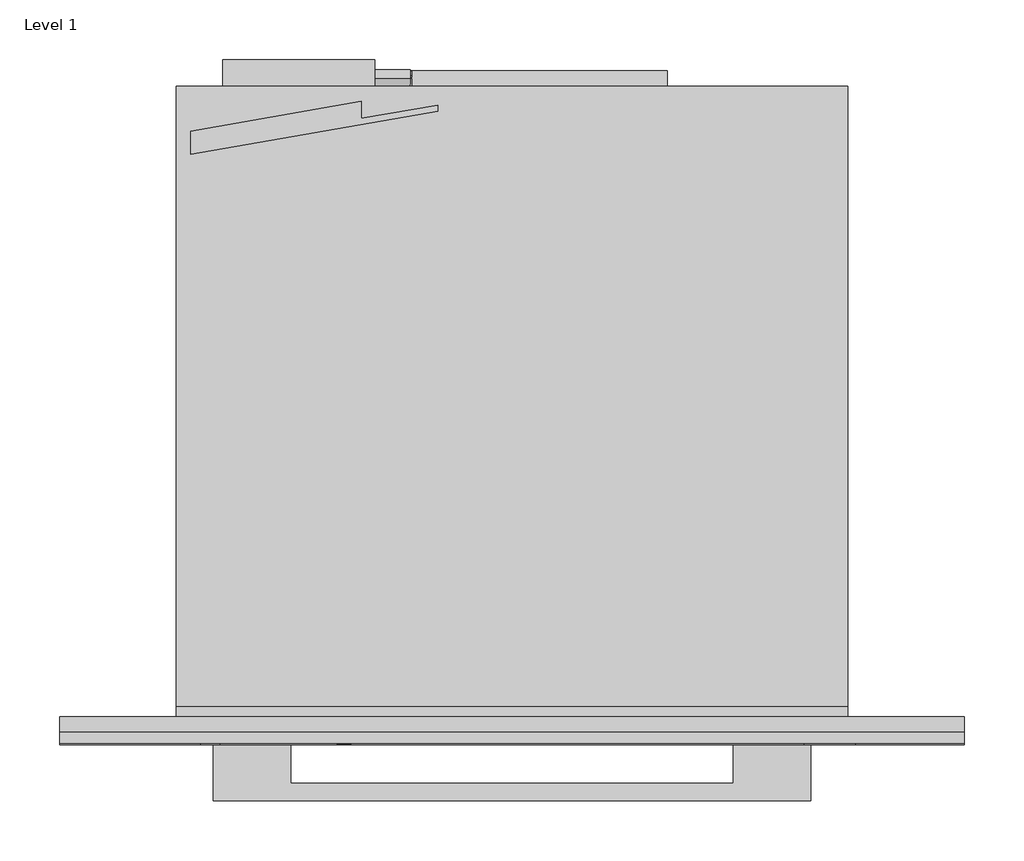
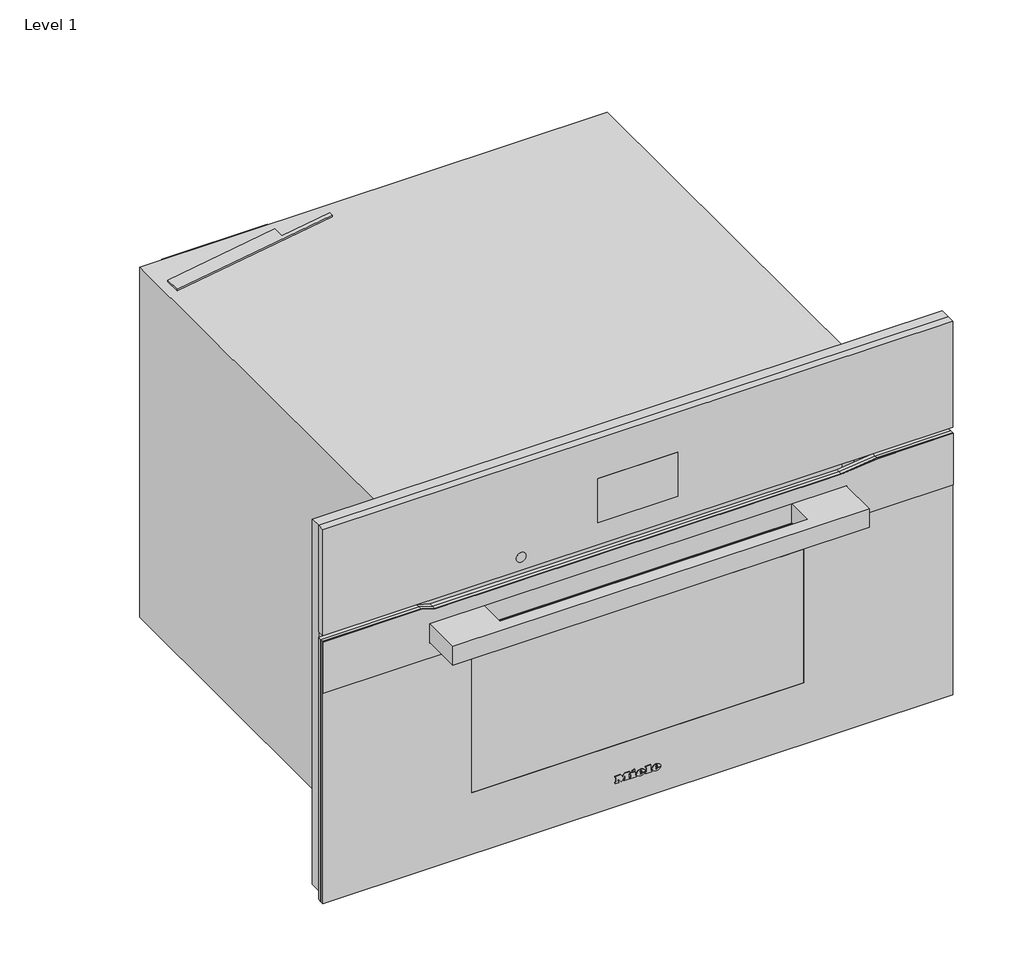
# One storey: 1 proxy.
"""IFC4 building model written with IfcOpenShell, lengths in millimetres."""

from ifc_helpers import new_model, si_unit, origin, place, context, project, spatial, transform, mapped, element, save
from components import specialty_equipment_2ededa6e

model = new_model("IFC4")

# Units and contexts
model_context = context("Model", 3, world=origin())
ifc_project = project(units=[si_unit("LENGTHUNIT", "METRE", prefix="MILLI")], contexts=[model_context])

# Site, building, storey
site = spatial("IfcSite", under=ifc_project)
building = spatial("IfcBuilding", under=site)
storey = spatial("IfcBuildingStorey", under=building, Name="Level 1", Elevation=0.0)

# Proxy
placement = place(None, origin())
specialty_equipment_shape = specialty_equipment_2ededa6e(model_context)
element("IfcBuildingElementProxy", 1, Name="11804610_USA_H7670BM_EDST-CLST : 22767046_USA_11804610_H7670BM_EDST-CLST", ObjectType="11804610_USA_H7670BM_EDST-CLST : 22767046_USA_11804610_H7670BM_EDST-CLST", at=placement, inside=storey, context=model_context, shape_type="MappedRepresentation", body=[
    mapped(specialty_equipment_shape, transform((0.0, 0.0, 0.0), x_axis=(1.0, 0.0, 0.0), y_axis=(0.0, 1.0, 0.0), z_axis=(0.0, 0.0, 1.0))),
])

save(model, "model.ifc")
